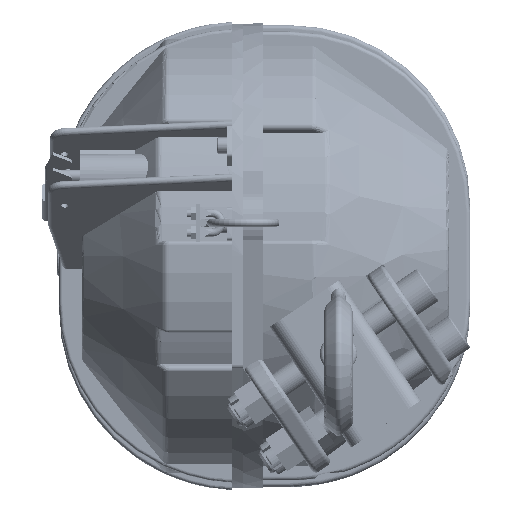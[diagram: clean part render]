
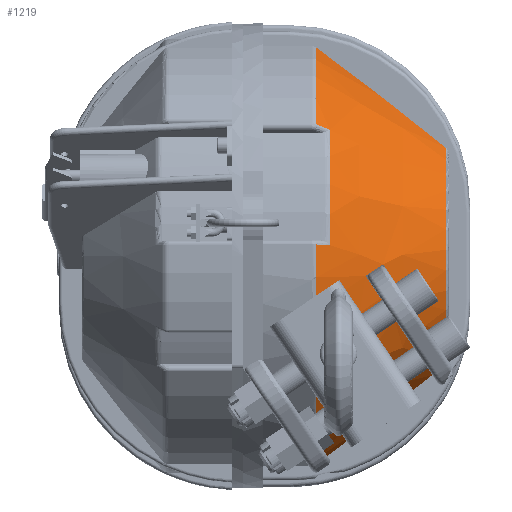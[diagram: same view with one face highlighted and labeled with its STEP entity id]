
A CAD part, top view. The second image highlights one B-rep face of the part: STEP entity #1219.
In plain terms, the highlighted conical face has half-angle 35.44 degrees and reference radius 136 mm.
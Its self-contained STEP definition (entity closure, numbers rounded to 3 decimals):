
#1219 = ADVANCED_FACE( '', ( #2331 ), #2332, .T. );
#2331 = FACE_OUTER_BOUND( '', #4643, .T. );
#2332 = CONICAL_SURFACE( '', #4644, 136., 0.619 );
#4643 = EDGE_LOOP( '', ( #9596, #9597, #9598, #9599, #9600, #9601, #9602, #9603, #9604, #9605, #9606, #9607 ) );
#4644 = AXIS2_PLACEMENT_3D( '', #9608, #9609, #9610 );
#9596 = ORIENTED_EDGE( '', *, *, #14956, .T. );
#9597 = ORIENTED_EDGE( '', *, *, #14915, .T. );
#9598 = ORIENTED_EDGE( '', *, *, #15253, .T. );
#9599 = ORIENTED_EDGE( '', *, *, #15084, .T. );
#9600 = ORIENTED_EDGE( '', *, *, #14729, .F. );
#9601 = ORIENTED_EDGE( '', *, *, #14899, .F. );
#9602 = ORIENTED_EDGE( '', *, *, #14886, .F. );
#9603 = ORIENTED_EDGE( '', *, *, #14596, .F. );
#9604 = ORIENTED_EDGE( '', *, *, #15293, .T. );
#9605 = ORIENTED_EDGE( '', *, *, #14303, .F. );
#9606 = ORIENTED_EDGE( '', *, *, #15295, .T. );
#9607 = ORIENTED_EDGE( '', *, *, #15296, .T. );
#9608 = CARTESIAN_POINT( '', ( 44., 0., 0. ) );
#9609 = DIRECTION( '', ( -1., 0., 0. ) );
#9610 = DIRECTION( '', ( 0., 0., 1. ) );
#14303 = EDGE_CURVE( '', #25599, #25601, #25602, .T. );
#14596 = EDGE_CURVE( '', #26111, #26113, #26114, .F. );
#14729 = EDGE_CURVE( '', #26323, #26325, #26326, .T. );
#14886 = EDGE_CURVE( '', #26113, #26557, #26558, .T. );
#14899 = EDGE_CURVE( '', #26557, #26323, #26576, .F. );
#14915 = EDGE_CURVE( '', #26600, #26461, #26601, .T. );
#14956 = EDGE_CURVE( '', #26659, #26600, #26662, .T. );
#15084 = EDGE_CURVE( '', #26823, #26325, #26824, .F. );
#15253 = EDGE_CURVE( '', #26461, #26823, #27024, .T. );
#15293 = EDGE_CURVE( '', #26111, #25601, #27067, .F. );
#15295 = EDGE_CURVE( '', #25599, #26686, #27069, .T. );
#15296 = EDGE_CURVE( '', #26686, #26659, #27070, .T. );
#25599 = VERTEX_POINT( '', #43146 );
#25601 = VERTEX_POINT( '', #43157 );
#25602 = B_SPLINE_CURVE_WITH_KNOTS( '', 3, ( #43158, #43159, #43160, #43161, #43162, #43163, #43164, #43165, #43166, #43167 ), .UNSPECIFIED., .F., .F., ( 4, 2, 2, 2, 4 ), ( 0.209, 0.234, 0.259, 0.285, 0.31 ), .UNSPECIFIED. );
#26111 = VERTEX_POINT( '', #44526 );
#26113 = VERTEX_POINT( '', #44533 );
#26114 = ELLIPSE( '', #44534, 169.592, 123.337 );
#26323 = VERTEX_POINT( '', #45266 );
#26325 = VERTEX_POINT( '', #45269 );
#26326 = B_SPLINE_CURVE_WITH_KNOTS( '', 3, ( #45270, #45271, #45272, #45273, #45274, #45275, #45276, #45277 ), .UNSPECIFIED., .F., .F., ( 4, 2, 2, 4 ), ( 0.495, 0.515, 0.535, 0.576 ), .UNSPECIFIED. );
#26461 = VERTEX_POINT( '', #45795 );
#26557 = VERTEX_POINT( '', #46096 );
#26558 = B_SPLINE_CURVE_WITH_KNOTS( '', 3, ( #46097, #46098, #46099, #46100 ), .UNSPECIFIED., .F., .F., ( 4, 4 ), ( 0., 0.015 ), .UNSPECIFIED. );
#26576 = ELLIPSE( '', #46143, 187.085, 136.059 );
#26600 = VERTEX_POINT( '', #46195 );
#26601 = B_SPLINE_CURVE_WITH_KNOTS( '', 3, ( #46196, #46197, #46198, #46199, #46200, #46201, #46202, #46203, #46204, #46205 ), .UNSPECIFIED., .F., .F., ( 4, 3, 3, 4 ), ( -0.002, 0., 0.006, 0.009 ), .UNSPECIFIED. );
#26659 = VERTEX_POINT( '', #46339 );
#26662 = CIRCLE( '', #46373, 129.074 );
#26686 = VERTEX_POINT( '', #46406 );
#26823 = VERTEX_POINT( '', #46952 );
#26824 = ELLIPSE( '', #46953, 297.428, 216.308 );
#27024 = CIRCLE( '', #47727, 135.074 );
#27067 = CIRCLE( '', #47862, 77.995 );
#27069 = CIRCLE( '', #47864, 135.074 );
#27070 = B_SPLINE_CURVE_WITH_KNOTS( '', 3, ( #47865, #47866, #47867, #47868, #47869, #47870, #47871, #47872, #47873, #47874 ), .UNSPECIFIED., .F., .F., ( 4, 3, 3, 4 ), ( 0., 0.006, 0.009, 0.01 ), .UNSPECIFIED. );
#43146 = CARTESIAN_POINT( '', ( 45.302, 129.015, 40. ) );
#43157 = CARTESIAN_POINT( '', ( 125.499, 66.957, 40. ) );
#43158 = CARTESIAN_POINT( '', ( 45.302, 129.015, 40. ) );
#43159 = CARTESIAN_POINT( '', ( 52.077, 123.967, 40. ) );
#43160 = CARTESIAN_POINT( '', ( 58.84, 118.902, 40. ) );
#43161 = CARTESIAN_POINT( '', ( 72.33, 108.725, 40. ) );
#43162 = CARTESIAN_POINT( '', ( 79.057, 103.613, 40. ) );
#43163 = CARTESIAN_POINT( '', ( 92.459, 93.317, 40. ) );
#43164 = CARTESIAN_POINT( '', ( 99.134, 88.134, 40. ) );
#43165 = CARTESIAN_POINT( '', ( 112.397, 77.653, 40. ) );
#43166 = CARTESIAN_POINT( '', ( 118.986, 72.356, 40. ) );
#43167 = CARTESIAN_POINT( '', ( 125.499, 66.957, 40. ) );
#44526 = CARTESIAN_POINT( '', ( 125.499, -62.909, 46.105 ) );
#44533 = CARTESIAN_POINT( '', ( 86.683, -5.363, 105.485 ) );
#44534 = AXIS2_PLACEMENT_3D( '', #53520, #53521, #53522 );
#45266 = CARTESIAN_POINT( '', ( 117.156, -73.788, 40. ) );
#45269 = CARTESIAN_POINT( '', ( 52.083, -123.953, 40. ) );
#45270 = CARTESIAN_POINT( '', ( 117.156, -73.788, 40. ) );
#45271 = CARTESIAN_POINT( '', ( 111.835, -78.097, 40. ) );
#45272 = CARTESIAN_POINT( '', ( 106.473, -82.354, 40. ) );
#45273 = CARTESIAN_POINT( '', ( 95.697, -90.802, 40. ) );
#45274 = CARTESIAN_POINT( '', ( 90.282, -94.994, 40. ) );
#45275 = CARTESIAN_POINT( '', ( 73.986, -107.5, 40. ) );
#45276 = CARTESIAN_POINT( '', ( 63.053, -115.749, 40. ) );
#45277 = CARTESIAN_POINT( '', ( 52.083, -123.953, 40. ) );
#45795 = CARTESIAN_POINT( '', ( 45.302, 6.893, 134.898 ) );
#46096 = CARTESIAN_POINT( '', ( 75.906, -12.632, 112.585 ) );
#46097 = CARTESIAN_POINT( '', ( 86.683, -5.363, 105.485 ) );
#46098 = CARTESIAN_POINT( '', ( 83.115, -7.769, 107.905 ) );
#46099 = CARTESIAN_POINT( '', ( 79.522, -10.193, 110.27 ) );
#46100 = CARTESIAN_POINT( '', ( 75.906, -12.632, 112.585 ) );
#46143 = AXIS2_PLACEMENT_3D( '', #53903, #53904, #53905 );
#46195 = CARTESIAN_POINT( '', ( 53.732, 6.449, 128.912 ) );
#46196 = CARTESIAN_POINT( '', ( 53.732, 6.449, 128.912 ) );
#46197 = CARTESIAN_POINT( '', ( 53.298, 6.471, 129.22 ) );
#46198 = CARTESIAN_POINT( '', ( 52.864, 6.494, 129.528 ) );
#46199 = CARTESIAN_POINT( '', ( 52.43, 6.517, 129.837 ) );
#46200 = CARTESIAN_POINT( '', ( 50.801, 6.603, 130.993 ) );
#46201 = CARTESIAN_POINT( '', ( 49.172, 6.689, 132.15 ) );
#46202 = CARTESIAN_POINT( '', ( 47.542, 6.775, 133.307 ) );
#46203 = CARTESIAN_POINT( '', ( 46.795, 6.814, 133.837 ) );
#46204 = CARTESIAN_POINT( '', ( 46.049, 6.854, 134.367 ) );
#46205 = CARTESIAN_POINT( '', ( 45.302, 6.893, 134.898 ) );
#46339 = CARTESIAN_POINT( '', ( 53.732, 77.923, 102.898 ) );
#46373 = AXIS2_PLACEMENT_3D( '', #53973, #53974, #53975 );
#46406 = CARTESIAN_POINT( '', ( 45.302, 81.43, 107.768 ) );
#46952 = CARTESIAN_POINT( '', ( 45.302, -113.899, 72.607 ) );
#46953 = AXIS2_PLACEMENT_3D( '', #54113, #54114, #54115 );
#47727 = AXIS2_PLACEMENT_3D( '', #54305, #54306, #54307 );
#47862 = AXIS2_PLACEMENT_3D( '', #54338, #54339, #54340 );
#47864 = AXIS2_PLACEMENT_3D( '', #54341, #54342, #54343 );
#47865 = CARTESIAN_POINT( '', ( 45.302, 81.43, 107.768 ) );
#47866 = CARTESIAN_POINT( '', ( 46.931, 80.752, 106.827 ) );
#47867 = CARTESIAN_POINT( '', ( 48.56, 80.075, 105.886 ) );
#47868 = CARTESIAN_POINT( '', ( 50.19, 79.397, 104.944 ) );
#47869 = CARTESIAN_POINT( '', ( 50.936, 79.086, 104.513 ) );
#47870 = CARTESIAN_POINT( '', ( 51.683, 78.776, 104.081 ) );
#47871 = CARTESIAN_POINT( '', ( 52.43, 78.465, 103.65 ) );
#47872 = CARTESIAN_POINT( '', ( 52.864, 78.284, 103.399 ) );
#47873 = CARTESIAN_POINT( '', ( 53.298, 78.104, 103.148 ) );
#47874 = CARTESIAN_POINT( '', ( 53.732, 77.923, 102.898 ) );
#53520 = CARTESIAN_POINT( '', ( 37.54, 67.496, 0. ) );
#53521 = DIRECTION( '', ( 0.829, 0.559, 0. ) );
#53522 = DIRECTION( '', ( -0.559, 0.829, 0. ) );
#53903 = CARTESIAN_POINT( '', ( 17.163, 74.458, 0. ) );
#53904 = DIRECTION( '', ( -0.829, -0.559, 0. ) );
#53905 = DIRECTION( '', ( -0.559, 0.829, 0. ) );
#53973 = CARTESIAN_POINT( '', ( 53.732, 0., 0. ) );
#53974 = DIRECTION( '', ( 1., 0., 0. ) );
#53975 = DIRECTION( '', ( 0., 0., -1. ) );
#54113 = CARTESIAN_POINT( '', ( -111.368, 118.373, 0. ) );
#54114 = DIRECTION( '', ( -0.829, -0.559, 0. ) );
#54115 = DIRECTION( '', ( -0.559, 0.829, 0. ) );
#54305 = CARTESIAN_POINT( '', ( 45.302, 0., 0. ) );
#54306 = DIRECTION( '', ( 1., 0., 0. ) );
#54307 = DIRECTION( '', ( 0., 0., -1. ) );
#54338 = CARTESIAN_POINT( '', ( 125.499, 0., 0. ) );
#54339 = DIRECTION( '', ( 1., 0., 0. ) );
#54340 = DIRECTION( '', ( 0., 0., -1. ) );
#54341 = CARTESIAN_POINT( '', ( 45.302, 0., 0. ) );
#54342 = DIRECTION( '', ( 1., 0., 0. ) );
#54343 = DIRECTION( '', ( 0., 0., -1. ) );
